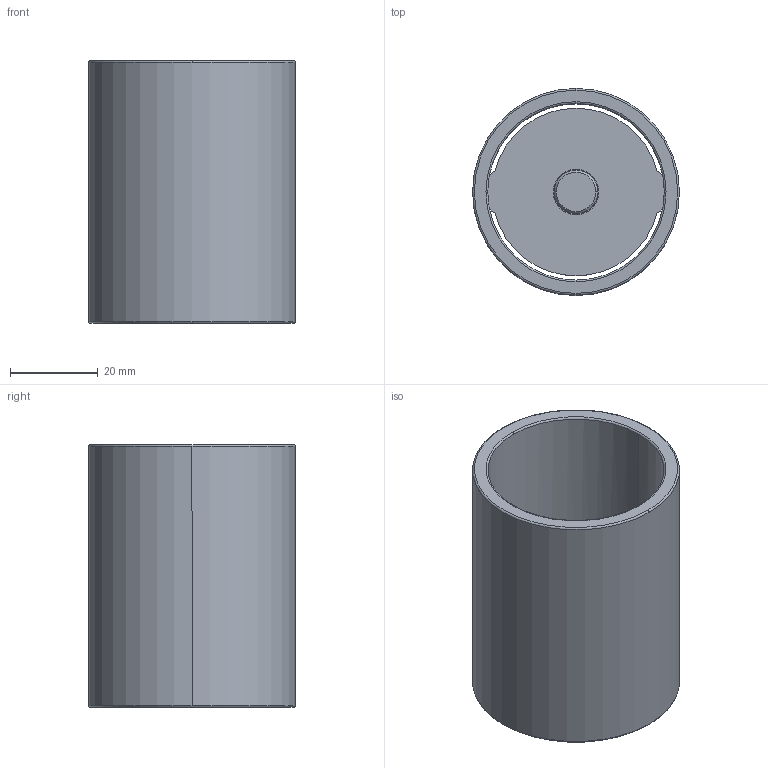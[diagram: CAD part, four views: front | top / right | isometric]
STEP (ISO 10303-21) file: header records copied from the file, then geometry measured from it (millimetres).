
FILE_DESCRIPTION((''),'2;1');
FILE_NAME('C11_040_060.stp','2009-01-12T09:43:51',(''),(''),'Mechanical Desktop 2009','Mechanical Desktop 2009',', , ');
FILE_SCHEMA(('CONFIG_CONTROL_DESIGN'));
Length unit declared in the file: millimetre
Products named in the file (2): Product; blmdl1
Assembly tree (1 placements, depth 2):
  Product
    blmdl1
Bounding box: 47.25 x 47.25 x 60 mm (x, y, z)
Volume: 33353.2 mm3; surface area: 21477.4 mm2
Topology: 3 solids, 3 shells, 44 faces, 110 edges, 74 vertices
Faces by surface type: cylinder 16, plane 16, torus 10, cone 2
Entity records: 1507 total; most frequent: CARTESIAN_POINT 274, DIRECTION 266, ORIENTED_EDGE 220, AXIS2_PLACEMENT_3D 114, EDGE_CURVE 110, VERTEX_POINT 74, CIRCLE 68, EDGE_LOOP 50
